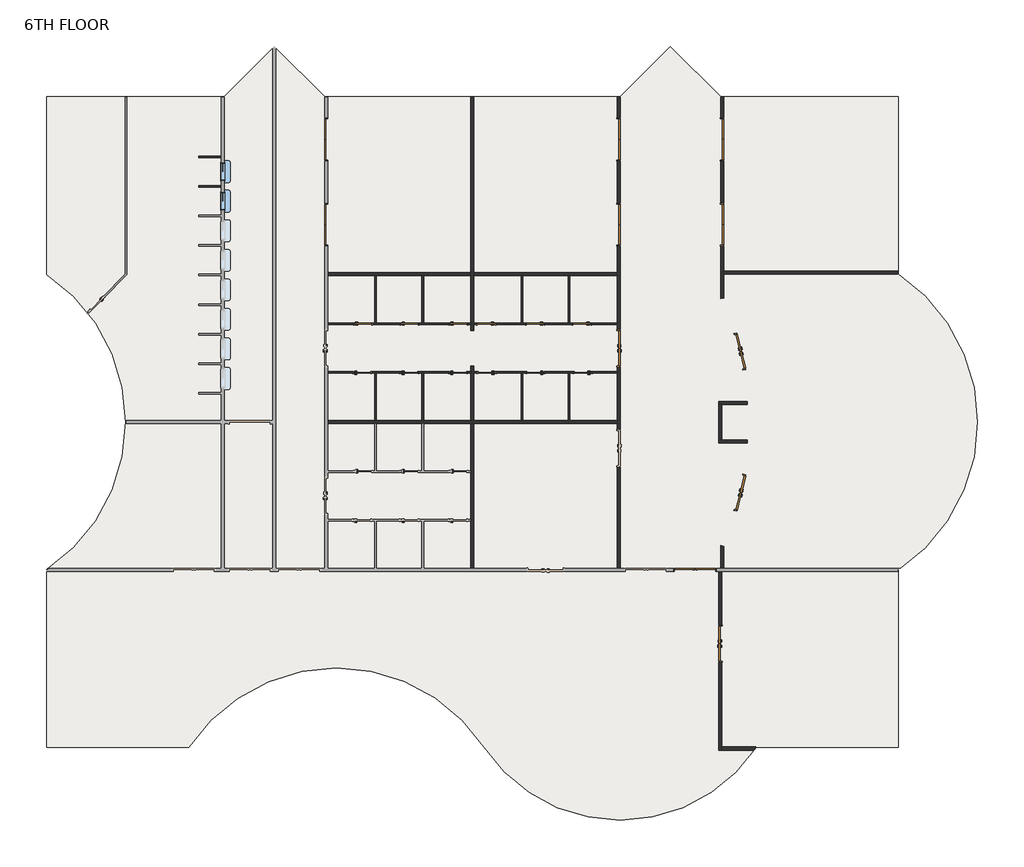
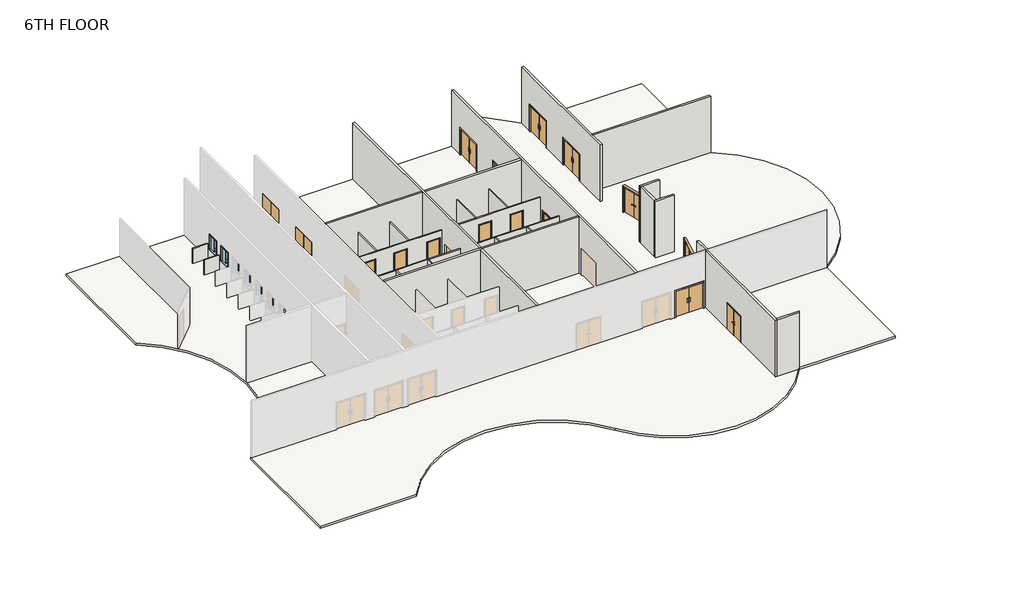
# One storey, part 2 of 2: 26 walls, 23 doors, 2 windows, 1 slab.
"""IFC4 building model written with IfcOpenShell, lengths in millimetres."""

from ifc_helpers import new_model, si_unit, point, frame, frame_2d, origin, place, context, project, spatial, polyline, circle_curve, trimmed, segment, composite_curve, outline, extrude, faceted_brep, transform, mapped, element, save
from ifc_brep_helpers import plane_surface, cylinder_surface, advanced_brep
from components import door_2f250f70, door_df8e76c5, door_0b13e4d9, door_b3a27a16, door_979b1b8c, door_f8b587be, pass_thru_4x3_19d81059

model = new_model("IFC4")

# Units and contexts
model_context = context("Model", 3, world=origin())
ifc_project = project(units=[si_unit("LENGTHUNIT", "METRE", prefix="MILLI")], contexts=[model_context])

# Site, building, storey
site = spatial("IfcSite", under=ifc_project)
building = spatial("IfcBuilding", under=site)
storey = spatial("IfcBuildingStorey", under=building, Name="6TH FLOOR", Elevation=27432.0)

# Doors
placement = place(None, origin())
door_shape = door_2f250f70(model_context)
element("IfcDoor", 1, ObjectType="Door-Passage-Double-Flush : 72\" x 82\"", at=placement, inside=storey, context=model_context, shape_type="MappedRepresentation", body=[
    mapped(door_shape, transform((35885.2621514, 20561.4429091, 27432.0), x_axis=(0.23975975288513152, -0.9708322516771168, 0.0), y_axis=(0.9708322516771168, 0.23975975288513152, 0.0), z_axis=(0.0, 0.0, 1.0))),
])
element("IfcDoor", 2, ObjectType="Door-Passage-Double-Flush : 72\" x 82\"", at=placement, inside=storey, context=model_context, shape_type="MappedRepresentation", body=[
    mapped(door_shape, transform((34887.5089577, 5494.3375, 27432.0), x_axis=(0.0, 1.0, 0.0), y_axis=(-1.0, 0.0, 0.0), z_axis=(0.0, 0.0, 1.0))),
])
door_2_shape = door_df8e76c5(model_context)
element("IfcDoor", 3, ObjectType="Door-Passage-Double-Flush : 72\" x 82\"", at=placement, inside=storey, context=model_context, shape_type="MappedRepresentation", body=[
    mapped(door_2_shape, transform((35886.7385063, 13277.3403388, 27432.0), x_axis=(0.23936619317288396, 0.9709293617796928, 0.0), y_axis=(-0.9709293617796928, 0.23936619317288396, 0.0), z_axis=(0.0, 0.0, 1.0))),
])
element("IfcDoor", 4, ObjectType="Door-Passage-Double-Flush : 72\" x 82\"", at=placement, inside=storey, context=model_context, shape_type="MappedRepresentation", body=[
    mapped(door_2_shape, transform((29628.0650257, 20729.575, 27432.0), x_axis=(0.0, 1.0, 0.0), y_axis=(-1.0, 0.0, 0.0), z_axis=(0.0, 0.0, 1.0))),
])
door_3_shape = door_0b13e4d9(model_context)
element("IfcDoor", 5, ObjectType="Door-Passage-Double-Flush-Dbl_Acting : 84\" x 84\"", at=placement, inside=storey, context=model_context, shape_type="MappedRepresentation", body=[
    mapped(door_3_shape, transform((33564.0300515, 9293.225, 27432.0), x_axis=(-1.0, 0.0, 0.0), y_axis=(0.0, -1.0, 0.0), z_axis=(0.0, 0.0, 1.0))),
])
element("IfcDoor", 6, ObjectType="Door-Passage-Double-Flush-Dbl_Acting : 84\" x 84\"", at=placement, inside=storey, context=model_context, shape_type="MappedRepresentation", body=[
    mapped(door_3_shape, transform((29628.0650257, 31499.175, 27432.0), x_axis=(0.0, 1.0, 0.0), y_axis=(-1.0, 0.0, 0.0), z_axis=(0.0, 0.0, 1.0))),
])
element("IfcDoor", 7, ObjectType="Door-Passage-Double-Flush-Dbl_Acting : 84\" x 84\"", at=placement, inside=storey, context=model_context, shape_type="MappedRepresentation", body=[
    mapped(door_3_shape, transform((29628.0650257, 27101.8, 27432.0), x_axis=(0.0, 1.0, 0.0), y_axis=(-1.0, 0.0, 0.0), z_axis=(0.0, 0.0, 1.0))),
])
door_4_shape = door_b3a27a16(model_context)
element("IfcDoor", 8, ObjectType="Door-Passage-Double-Flush-Dbl_Acting : 84\" x 84\"", at=placement, inside=storey, context=model_context, shape_type="MappedRepresentation", body=[
    mapped(door_4_shape, transform((14556.3400257, 31499.175, 27432.0), x_axis=(0.0, 1.0, 0.0), y_axis=(-1.0, 0.0, 0.0), z_axis=(0.0, 0.0, 1.0))),
])
element("IfcDoor", 9, ObjectType="Door-Passage-Double-Flush-Dbl_Acting : 84\" x 84\"", at=placement, inside=storey, context=model_context, shape_type="MappedRepresentation", body=[
    mapped(door_4_shape, transform((14556.3400257, 27101.8, 27432.0), x_axis=(0.0, 1.0, 0.0), y_axis=(-1.0, 0.0, 0.0), z_axis=(0.0, 0.0, 1.0))),
])
element("IfcDoor", 10, ObjectType="Door-Passage-Double-Flush-Dbl_Acting : 84\" x 84\"", at=placement, inside=storey, context=model_context, shape_type="MappedRepresentation", body=[
    mapped(door_4_shape, transform((34956.2675515, 31499.175, 27432.0), x_axis=(0.0, -1.0, 0.0), y_axis=(1.0, 0.0, 0.0), z_axis=(0.0, 0.0, 1.0))),
])
element("IfcDoor", 11, ObjectType="Door-Passage-Double-Flush-Dbl_Acting : 84\" x 84\"", at=placement, inside=storey, context=model_context, shape_type="MappedRepresentation", body=[
    mapped(door_4_shape, transform((34956.2675515, 27101.8, 27432.0), x_axis=(0.0, -1.0, 0.0), y_axis=(1.0, 0.0, 0.0), z_axis=(0.0, 0.0, 1.0))),
])
door_5_shape = door_979b1b8c(model_context)
element("IfcDoor", 12, ObjectType="Door-Passage-Single-Flush : 36\" x 96\"", at=placement, inside=storey, context=model_context, shape_type="MappedRepresentation", body=[
    mapped(door_5_shape, transform((16456.5775257, 21977.35, 27432.0), x_axis=(1.0, 0.0, 0.0), y_axis=(0.0, 1.0, 0.0), z_axis=(0.0, 0.0, 1.0))),
])
element("IfcDoor", 13, ObjectType="Door-Passage-Single-Flush : 36\" x 96\"", at=placement, inside=storey, context=model_context, shape_type="MappedRepresentation", body=[
    mapped(door_5_shape, transform((18855.2900257, 21977.35, 27432.0), x_axis=(1.0, 0.0, 0.0), y_axis=(0.0, 1.0, 0.0), z_axis=(0.0, 0.0, 1.0))),
])
element("IfcDoor", 14, ObjectType="Door-Passage-Single-Flush : 36\" x 96\"", at=placement, inside=storey, context=model_context, shape_type="MappedRepresentation", body=[
    mapped(door_5_shape, transform((21373.0650257, 21977.35, 27432.0), x_axis=(1.0, 0.0, 0.0), y_axis=(0.0, 1.0, 0.0), z_axis=(0.0, 0.0, 1.0))),
])
element("IfcDoor", 15, ObjectType="Door-Passage-Single-Flush : 36\" x 96\"", at=placement, inside=storey, context=model_context, shape_type="MappedRepresentation", body=[
    mapped(door_5_shape, transform((27778.6275257, 19481.8, 27432.0), x_axis=(-1.0, 0.0, 0.0), y_axis=(0.0, -1.0, 0.0), z_axis=(0.0, 0.0, 1.0))),
])
element("IfcDoor", 16, ObjectType="Door-Passage-Single-Flush : 36\" x 96\"", at=placement, inside=storey, context=model_context, shape_type="MappedRepresentation", body=[
    mapped(door_5_shape, transform((25348.1650257, 19481.8, 27432.0), x_axis=(-1.0, 0.0, 0.0), y_axis=(0.0, -1.0, 0.0), z_axis=(0.0, 0.0, 1.0))),
])
element("IfcDoor", 17, ObjectType="Door-Passage-Single-Flush : 36\" x 96\"", at=placement, inside=storey, context=model_context, shape_type="MappedRepresentation", body=[
    mapped(door_5_shape, transform((22830.3900257, 19481.8, 27432.0), x_axis=(-1.0, 0.0, 0.0), y_axis=(0.0, -1.0, 0.0), z_axis=(0.0, 0.0, 1.0))),
])
door_6_shape = door_f8b587be(model_context)
element("IfcDoor", 18, ObjectType="Door-Passage-Single-Flush : 36\" x 96\"", at=placement, inside=storey, context=model_context, shape_type="MappedRepresentation", body=[
    mapped(door_6_shape, transform((16405.7775257, 19481.8, 27432.0), x_axis=(1.0, 0.0, 0.0), y_axis=(0.0, 1.0, 0.0), z_axis=(0.0, 0.0, 1.0))),
])
element("IfcDoor", 19, ObjectType="Door-Passage-Single-Flush : 36\" x 96\"", at=placement, inside=storey, context=model_context, shape_type="MappedRepresentation", body=[
    mapped(door_6_shape, transform((18836.2400257, 19481.8, 27432.0), x_axis=(1.0, 0.0, 0.0), y_axis=(0.0, 1.0, 0.0), z_axis=(0.0, 0.0, 1.0))),
])
element("IfcDoor", 20, ObjectType="Door-Passage-Single-Flush : 36\" x 96\"", at=placement, inside=storey, context=model_context, shape_type="MappedRepresentation", body=[
    mapped(door_6_shape, transform((21354.0150257, 19481.8, 27432.0), x_axis=(1.0, 0.0, 0.0), y_axis=(0.0, 1.0, 0.0), z_axis=(0.0, 0.0, 1.0))),
])
element("IfcDoor", 21, ObjectType="Door-Passage-Single-Flush : 36\" x 96\"", at=placement, inside=storey, context=model_context, shape_type="MappedRepresentation", body=[
    mapped(door_6_shape, transform((27727.8275257, 21977.35, 27432.0), x_axis=(-1.0, 0.0, 0.0), y_axis=(0.0, -1.0, 0.0), z_axis=(0.0, 0.0, 1.0))),
])
element("IfcDoor", 22, ObjectType="Door-Passage-Single-Flush : 36\" x 96\"", at=placement, inside=storey, context=model_context, shape_type="MappedRepresentation", body=[
    mapped(door_6_shape, transform((25329.1150257, 21977.35, 27432.0), x_axis=(-1.0, 0.0, 0.0), y_axis=(0.0, -1.0, 0.0), z_axis=(0.0, 0.0, 1.0))),
])
element("IfcDoor", 23, ObjectType="Door-Passage-Single-Flush : 36\" x 96\"", at=placement, inside=storey, context=model_context, shape_type="MappedRepresentation", body=[
    mapped(door_6_shape, transform((22811.3400257, 21977.35, 27432.0), x_axis=(-1.0, 0.0, 0.0), y_axis=(0.0, -1.0, 0.0), z_axis=(0.0, 0.0, 1.0))),
])

# Slab
element("IfcSlab", 24, ObjectType="ARCHITECTURAL FINISH FLOOR", at=placement, inside=storey, context=model_context, shape_type="SweptSolid", body=[
    extrude(outline(composite_curve([segment(polyline([(9294.3144878, 33696.275), (11885.8887629, 36287.8492751), (14477.463038, 33696.275), (29706.9420135, 33696.275), (32298.5162886, 36287.8492751), (34890.0905637, 33696.275), (44041.5300515, 33696.275), (44041.5300515, 24546.3877275)]), True, "CONTINUOUS"), segment(trimmed(circle_curve(frame_2d((38974.293871, 16919.575)), 9156.7), [point((44041.5300515, 24546.3877275))], [point((44041.5300515, 9292.7622725))], False, "CARTESIAN"), True, "CONTINUOUS"), segment(polyline([(44041.5300515, 9292.7622725), (44041.5300515, 142.875), (36720.4425102, 142.875)]), True, "CONTINUOUS"), segment(trimmed(circle_curve(frame_2d((29712.2025257, 4799.7966199)), 8414.4130309), [point((36720.4425102, 142.875))], [point((22700.1916667, 148.5548109))], False, "CARTESIAN"), True, "CONTINUOUS"), segment(trimmed(circle_curve(frame_2d((15090.775, -4898.9611805)), 9131.3), [point((22700.1916667, 148.5548109))], [point((7477.593824, 142.875))], True, "CARTESIAN"), True, "CONTINUOUS"), segment(polyline([(7477.593824, 142.875), (142.875, 142.875), (142.875, 9306.393824)]), True, "CONTINUOUS"), segment(trimmed(circle_curve(frame_2d((-4898.9611805, 16919.575)), 9131.3), [point((142.875, 9306.393824))], [point((142.875, 24532.756176))], True, "CARTESIAN"), True, "CONTINUOUS"), segment(polyline([(142.875, 24532.756176), (142.875, 33696.275), (9294.3144878, 33696.275)]), True, "CONTINUOUS")], self_intersect=False)), frame((0.0, 0.0, 27279.6), z_axis=(0.0, 0.0, 1.0), x_axis=(1.0, 0.0, 0.0)), (0.0, 0.0, 1.0), 171.45),
])

# Walls
element("IfcWall", 25, ObjectType="SYR_INT_ONE_HOUR", at=placement, inside=storey, context=model_context, shape_type="SweptSolid", body=[
    extrude(outline(polyline([(17066.1775257, 22023.3875), (17066.1775257, 24461.7875), (17145.5525257, 24461.7875), (17145.5525257, 22023.3875), (17066.1775257, 22023.3875)])), frame((0.0, 0.0, 27432.0), z_axis=(0.0, 0.0, 1.0), x_axis=(1.0, 0.0, 0.0)), (0.0, 0.0, 1.0), 3048.0),
])
element("IfcWall", 26, ObjectType="SYR_INT_ONE_HOUR", at=placement, inside=storey, context=model_context, shape_type="SweptSolid", body=[
    extrude(outline(polyline([(19576.0150257, 19435.7625), (19576.0150257, 16997.3625), (19496.6400257, 16997.3625), (19496.6400257, 19435.7625), (19576.0150257, 19435.7625)])), frame((0.0, 0.0, 27432.0), z_axis=(0.0, 0.0, 1.0), x_axis=(1.0, 0.0, 0.0)), (0.0, 0.0, 1.0), 3048.0),
])
element("IfcWall", 27, ObjectType="SYR_INT_ONE_HOUR", at=placement, inside=storey, context=model_context, shape_type="Brep", body=[
    faceted_brep([(14627.7775257, 22023.3875, 30480.0), (17066.1775257, 22023.3875, 30480.0), (17145.5525257, 22023.3875, 30480.0), (19496.6400257, 22023.3875, 30480.0), (19576.0150257, 22023.3875, 30480.0), (22014.4150257, 22023.3875, 30480.0), (22014.4150257, 22023.3875, 27432.0), (21862.0150257, 22023.3875, 27432.0), (21862.0150257, 22023.3875, 29902.15), (20884.1150257, 22023.3875, 29902.15), (20884.1150257, 22023.3875, 27432.0), (19576.0150257, 22023.3875, 27432.0), (19496.6400257, 22023.3875, 27432.0), (19344.2400257, 22023.3875, 27432.0), (19344.2400257, 22023.3875, 29902.15), (18366.3400257, 22023.3875, 29902.15), (18366.3400257, 22023.3875, 27432.0), (17145.5525257, 22023.3875, 27432.0), (17066.1775257, 22023.3875, 27432.0), (16945.5275257, 22023.3875, 27432.0), (16945.5275257, 22023.3875, 29902.15), (15967.6275257, 22023.3875, 29902.15), (15967.6275257, 22023.3875, 27432.0), (14627.7775257, 22023.3875, 27432.0), (22014.4150257, 21944.0125, 30480.0), (14627.7775257, 21944.0125, 30480.0), (14627.7775257, 21944.0125, 27432.0), (15967.6275257, 21944.0125, 27432.0), (15967.6275257, 21944.0125, 29902.15), (16945.5275257, 21944.0125, 29902.15), (16945.5275257, 21944.0125, 27432.0), (18366.3400257, 21944.0125, 27432.0), (18366.3400257, 21944.0125, 29902.15), (19344.2400257, 21944.0125, 29902.15), (19344.2400257, 21944.0125, 27432.0), (20884.1150257, 21944.0125, 27432.0), (20884.1150257, 21944.0125, 29902.15), (21862.0150257, 21944.0125, 29902.15), (21862.0150257, 21944.0125, 27432.0), (22014.4150257, 21944.0125, 27432.0)], [[[0, 1, 2, 3, 4, 5, 6, 7, 8, 9, 10, 11, 12, 13, 14, 15, 16, 17, 18, 19, 20, 21, 22, 23]], [[24, 25, 26, 27, 28, 29, 30, 31, 32, 33, 34, 35, 36, 37, 38, 39]], [[23, 22, 27, 26]], [[30, 19, 18, 17, 16, 31]], [[34, 13, 12, 11, 10, 35]], [[6, 39, 38, 7]], [[5, 4, 3, 2, 1, 0, 25, 24]], [[29, 20, 19, 30]], [[20, 29, 28, 21]], [[21, 28, 27, 22]], [[14, 13, 34, 33]], [[15, 14, 33, 32]], [[16, 15, 32, 31]], [[37, 8, 7, 38]], [[8, 37, 36, 9]], [[9, 36, 35, 10]], [[0, 23, 26, 25]], [[6, 5, 24, 39]]]),
])
element("IfcWall", 28, ObjectType="SYR_INT_ONE_HOUR", at=placement, inside=storey, context=model_context, shape_type="Brep", body=[
    faceted_brep([(14627.7775257, 19515.1375, 30480.0), (22014.4150257, 19515.1375, 30480.0), (22014.4150257, 19515.1375, 27432.0), (21842.9650257, 19515.1375, 27432.0), (21842.9650257, 19515.1375, 29902.15), (20865.0650257, 19515.1375, 29902.15), (20865.0650257, 19515.1375, 27432.0), (19325.1900257, 19515.1375, 27432.0), (19325.1900257, 19515.1375, 29902.15), (18347.2900257, 19515.1375, 29902.15), (18347.2900257, 19515.1375, 27432.0), (16894.7275257, 19515.1375, 27432.0), (16894.7275257, 19515.1375, 29902.15), (15916.8275257, 19515.1375, 29902.15), (15916.8275257, 19515.1375, 27432.0), (14627.7775257, 19515.1375, 27432.0), (22014.4150257, 19435.7625, 30480.0), (19576.0150257, 19435.7625, 30480.0), (19496.6400257, 19435.7625, 30480.0), (17145.5525257, 19435.7625, 30480.0), (17066.1775257, 19435.7625, 30480.0), (14627.7775257, 19435.7625, 30480.0), (14627.7775257, 19435.7625, 27432.0), (15916.8275257, 19435.7625, 27432.0), (15916.8275257, 19435.7625, 29902.15), (16894.7275257, 19435.7625, 29902.15), (16894.7275257, 19435.7625, 27432.0), (17066.1775257, 19435.7625, 27432.0), (17145.5525257, 19435.7625, 27432.0), (18347.2900257, 19435.7625, 27432.0), (18347.2900257, 19435.7625, 29902.15), (19325.1900257, 19435.7625, 29902.15), (19325.1900257, 19435.7625, 27432.0), (19496.6400257, 19435.7625, 27432.0), (19576.0150257, 19435.7625, 27432.0), (20865.0650257, 19435.7625, 27432.0), (20865.0650257, 19435.7625, 29902.15), (21842.9650257, 19435.7625, 29902.15), (21842.9650257, 19435.7625, 27432.0), (22014.4150257, 19435.7625, 27432.0)], [[[0, 1, 2, 3, 4, 5, 6, 7, 8, 9, 10, 11, 12, 13, 14, 15]], [[16, 17, 18, 19, 20, 21, 22, 23, 24, 25, 26, 27, 28, 29, 30, 31, 32, 33, 34, 35, 36, 37, 38, 39]], [[15, 14, 23, 22]], [[26, 11, 10, 29, 28, 27]], [[32, 7, 6, 35, 34, 33]], [[2, 39, 38, 3]], [[1, 0, 21, 20, 19, 18, 17, 16]], [[25, 12, 11, 26]], [[12, 25, 24, 13]], [[13, 24, 23, 14]], [[31, 8, 7, 32]], [[8, 31, 30, 9]], [[9, 30, 29, 10]], [[37, 4, 3, 38]], [[4, 37, 36, 5]], [[5, 36, 35, 6]], [[0, 15, 22, 21]], [[2, 1, 16, 39]]]),
])
element("IfcWall", 29, ObjectType="SYR_INT_ONE_HOUR", at=placement, inside=storey, context=model_context, shape_type="SweptSolid", body=[
    extrude(outline(polyline([(17066.1775257, 16997.3625), (17066.1775257, 19435.7625), (17145.5525257, 19435.7625), (17145.5525257, 16997.3625), (17066.1775257, 16997.3625)])), frame((0.0, 0.0, 27432.0), z_axis=(0.0, 0.0, 1.0), x_axis=(1.0, 0.0, 0.0)), (0.0, 0.0, 1.0), 3048.0),
])
element("IfcWall", 30, ObjectType="SYR_INT_ONE_HOUR", at=placement, inside=storey, context=model_context, shape_type="SweptSolid", body=[
    extrude(outline(polyline([(19576.0150257, 24461.7875), (19576.0150257, 22023.3875), (19496.6400257, 22023.3875), (19496.6400257, 24461.7875), (19576.0150257, 24461.7875)])), frame((0.0, 0.0, 27432.0), z_axis=(0.0, 0.0, 1.0), x_axis=(1.0, 0.0, 0.0)), (0.0, 0.0, 1.0), 3048.0),
])
element("IfcWall", 31, ObjectType="SYR_INT_ONE_HOUR", at=placement, inside=storey, context=model_context, shape_type="SweptSolid", body=[
    extrude(outline(polyline([(7979.2710938, 29111.575), (9144.0, 29111.575), (9144.0, 29032.2), (7979.2710938, 29032.2), (7979.2710938, 29111.575)])), frame((0.0, 0.0, 27432.0), z_axis=(0.0, 0.0, 1.0), x_axis=(1.0, 0.0, 0.0)), (0.0, 0.0, 1.0), 1219.2),
])
element("IfcWall", 32, ObjectType="SYR_INT_ONE_HOUR", at=placement, inside=storey, context=model_context, shape_type="SweptSolid", body=[
    extrude(outline(polyline([(7979.2710938, 30635.575), (9144.0, 30635.575), (9144.0, 30556.2), (7979.2710938, 30556.2), (7979.2710938, 30635.575)])), frame((0.0, 0.0, 27432.0), z_axis=(0.0, 0.0, 1.0), x_axis=(1.0, 0.0, 0.0)), (0.0, 0.0, 1.0), 1219.2),
])
element("IfcWall", 33, ObjectType="SYR_INT_ONE_HOUR", at=placement, inside=storey, context=model_context, shape_type="SweptSolid", body=[
    extrude(outline(polyline([(27038.8525257, 22023.3875), (27038.8525257, 24461.7875), (27118.2275257, 24461.7875), (27118.2275257, 22023.3875), (27038.8525257, 22023.3875)])), frame((0.0, 0.0, 27432.0), z_axis=(0.0, 0.0, 1.0), x_axis=(1.0, 0.0, 0.0)), (0.0, 0.0, 1.0), 3048.0),
])
element("IfcWall", 34, ObjectType="SYR_INT_ONE_HOUR", at=placement, inside=storey, context=model_context, shape_type="SweptSolid", body=[
    extrude(outline(polyline([(24687.7650257, 19435.7625), (24687.7650257, 16997.3625), (24608.3900257, 16997.3625), (24608.3900257, 19435.7625), (24687.7650257, 19435.7625)])), frame((0.0, 0.0, 27432.0), z_axis=(0.0, 0.0, 1.0), x_axis=(1.0, 0.0, 0.0)), (0.0, 0.0, 1.0), 3048.0),
])
element("IfcWall", 35, ObjectType="SYR_INT_ONE_HOUR", at=placement, inside=storey, context=model_context, shape_type="Brep", body=[
    faceted_brep([(29556.6275257, 21944.0125, 30480.0), (22169.9900257, 21944.0125, 30480.0), (22169.9900257, 21944.0125, 27432.0), (22322.3900257, 21944.0125, 27432.0), (22322.3900257, 21944.0125, 29902.15), (23300.2900257, 21944.0125, 29902.15), (23300.2900257, 21944.0125, 27432.0), (24840.1650257, 21944.0125, 27432.0), (24840.1650257, 21944.0125, 29902.15), (25818.0650257, 21944.0125, 29902.15), (25818.0650257, 21944.0125, 27432.0), (27238.8775257, 21944.0125, 27432.0), (27238.8775257, 21944.0125, 29902.15), (28216.7775257, 21944.0125, 29902.15), (28216.7775257, 21944.0125, 27432.0), (29556.6275257, 21944.0125, 27432.0), (22169.9900257, 22023.3875, 30480.0), (24608.3900257, 22023.3875, 30480.0), (24687.7650257, 22023.3875, 30480.0), (27038.8525257, 22023.3875, 30480.0), (27118.2275257, 22023.3875, 30480.0), (29556.6275257, 22023.3875, 30480.0), (29556.6275257, 22023.3875, 27432.0), (28216.7775257, 22023.3875, 27432.0), (28216.7775257, 22023.3875, 29902.15), (27238.8775257, 22023.3875, 29902.15), (27238.8775257, 22023.3875, 27432.0), (27118.2275257, 22023.3875, 27432.0), (27038.8525257, 22023.3875, 27432.0), (25818.0650257, 22023.3875, 27432.0), (25818.0650257, 22023.3875, 29902.15), (24840.1650257, 22023.3875, 29902.15), (24840.1650257, 22023.3875, 27432.0), (24687.7650257, 22023.3875, 27432.0), (24608.3900257, 22023.3875, 27432.0), (23300.2900257, 22023.3875, 27432.0), (23300.2900257, 22023.3875, 29902.15), (22322.3900257, 22023.3875, 29902.15), (22322.3900257, 22023.3875, 27432.0), (22169.9900257, 22023.3875, 27432.0)], [[[0, 1, 2, 3, 4, 5, 6, 7, 8, 9, 10, 11, 12, 13, 14, 15]], [[16, 17, 18, 19, 20, 21, 22, 23, 24, 25, 26, 27, 28, 29, 30, 31, 32, 33, 34, 35, 36, 37, 38, 39]], [[15, 14, 23, 22]], [[26, 11, 10, 29, 28, 27]], [[32, 7, 6, 35, 34, 33]], [[2, 39, 38, 3]], [[1, 0, 21, 20, 19, 18, 17, 16]], [[25, 12, 11, 26]], [[12, 25, 24, 13]], [[13, 24, 23, 14]], [[8, 7, 32, 31]], [[9, 8, 31, 30]], [[10, 9, 30, 29]], [[37, 4, 3, 38]], [[4, 37, 36, 5]], [[5, 36, 35, 6]], [[0, 15, 22, 21]], [[2, 1, 16, 39]]]),
])
element("IfcWall", 36, ObjectType="SYR_INT_ONE_HOUR", at=placement, inside=storey, context=model_context, shape_type="Brep", body=[
    faceted_brep([(29556.6275257, 19435.7625, 30480.0), (27118.2275257, 19435.7625, 30480.0), (27038.8525257, 19435.7625, 30480.0), (24687.7650257, 19435.7625, 30480.0), (24608.3900257, 19435.7625, 30480.0), (22169.9900257, 19435.7625, 30480.0), (22169.9900257, 19435.7625, 27432.0), (22341.4400257, 19435.7625, 27432.0), (22341.4400257, 19435.7625, 29902.15), (23319.3400257, 19435.7625, 29902.15), (23319.3400257, 19435.7625, 27432.0), (24608.3900257, 19435.7625, 27432.0), (24687.7650257, 19435.7625, 27432.0), (24859.2150257, 19435.7625, 27432.0), (24859.2150257, 19435.7625, 29902.15), (25837.1150257, 19435.7625, 29902.15), (25837.1150257, 19435.7625, 27432.0), (27038.8525257, 19435.7625, 27432.0), (27118.2275257, 19435.7625, 27432.0), (27289.6775257, 19435.7625, 27432.0), (27289.6775257, 19435.7625, 29902.15), (28267.5775257, 19435.7625, 29902.15), (28267.5775257, 19435.7625, 27432.0), (29556.6275257, 19435.7625, 27432.0), (22169.9900257, 19515.1375, 30480.0), (29556.6275257, 19515.1375, 30480.0), (29556.6275257, 19515.1375, 27432.0), (28267.5775257, 19515.1375, 27432.0), (28267.5775257, 19515.1375, 29902.15), (27289.6775257, 19515.1375, 29902.15), (27289.6775257, 19515.1375, 27432.0), (25837.1150257, 19515.1375, 27432.0), (25837.1150257, 19515.1375, 29902.15), (24859.2150257, 19515.1375, 29902.15), (24859.2150257, 19515.1375, 27432.0), (23319.3400257, 19515.1375, 27432.0), (23319.3400257, 19515.1375, 29902.15), (22341.4400257, 19515.1375, 29902.15), (22341.4400257, 19515.1375, 27432.0), (22169.9900257, 19515.1375, 27432.0)], [[[0, 1, 2, 3, 4, 5, 6, 7, 8, 9, 10, 11, 12, 13, 14, 15, 16, 17, 18, 19, 20, 21, 22, 23]], [[24, 25, 26, 27, 28, 29, 30, 31, 32, 33, 34, 35, 36, 37, 38, 39]], [[23, 22, 27, 26]], [[30, 19, 18, 17, 16, 31]], [[34, 13, 12, 11, 10, 35]], [[6, 39, 38, 7]], [[5, 4, 3, 2, 1, 0, 25, 24]], [[29, 20, 19, 30]], [[20, 29, 28, 21]], [[21, 28, 27, 22]], [[33, 14, 13, 34]], [[14, 33, 32, 15]], [[15, 32, 31, 16]], [[37, 8, 7, 38]], [[8, 37, 36, 9]], [[9, 36, 35, 10]], [[0, 23, 26, 25]], [[6, 5, 24, 39]]]),
])
element("IfcWall", 37, ObjectType="SYR_INT_ONE_HOUR", at=placement, inside=storey, context=model_context, shape_type="SweptSolid", body=[
    extrude(outline(polyline([(27038.8525257, 16997.3625), (27038.8525257, 19435.7625), (27118.2275257, 19435.7625), (27118.2275257, 16997.3625), (27038.8525257, 16997.3625)])), frame((0.0, 0.0, 27432.0), z_axis=(0.0, 0.0, 1.0), x_axis=(1.0, 0.0, 0.0)), (0.0, 0.0, 1.0), 3048.0),
])
element("IfcWall", 38, ObjectType="SYR_INT_ONE_HOUR", at=placement, inside=storey, context=model_context, shape_type="SweptSolid", body=[
    extrude(outline(polyline([(24687.7650257, 24461.7875), (24687.7650257, 22023.3875), (24608.3900257, 22023.3875), (24608.3900257, 24461.7875), (24687.7650257, 24461.7875)])), frame((0.0, 0.0, 27432.0), z_axis=(0.0, 0.0, 1.0), x_axis=(1.0, 0.0, 0.0)), (0.0, 0.0, 1.0), 3048.0),
])
element("IfcWall", 39, ObjectType="SYR_INT_TWO_HOUR", at=placement, inside=storey, context=model_context, shape_type="Brep", body=[
    faceted_brep([(34803.3714577, 0.0, 32004.0), (34803.3714577, 9221.7875, 32004.0), (34803.3714577, 9221.7875, 27432.0), (34803.3714577, 6459.5375, 27432.0), (34803.3714577, 6459.5375, 29616.4), (34803.3714577, 4529.1375, 29616.4), (34803.3714577, 4529.1375, 27432.0), (34803.3714577, 0.0, 27432.0), (34958.9464577, 9221.7875, 32004.0), (34958.9464577, 155.575, 32004.0), (34958.9464577, 0.0, 32004.0), (34958.9464577, 0.0, 27432.0), (34958.9464577, 155.575, 27432.0), (34958.9464577, 4529.1375, 27432.0), (34958.9464577, 4529.1375, 29616.4), (34958.9464577, 6459.5375, 29616.4), (34958.9464577, 6459.5375, 27432.0), (34958.9464577, 9221.7875, 27432.0)], [[[0, 1, 2, 3, 4, 5, 6, 7]], [[8, 9, 10, 11, 12, 13, 14, 15, 16, 17]], [[2, 17, 16, 3]], [[11, 7, 6, 13, 12]], [[1, 0, 10, 9, 8]], [[2, 1, 8, 17]], [[0, 7, 11, 10]], [[15, 4, 3, 16]], [[4, 15, 14, 5]], [[5, 14, 13, 6]]]),
])
element("IfcWall", 40, ObjectType="SYR_INT_TWO_HOUR", at=placement, inside=storey, context=model_context, shape_type="SweptSolid", body=[
    extrude(outline(composite_curve([segment(polyline([(36607.9065696, 0.0), (34958.9464577, 0.0), (34958.9464577, 155.575), (36713.6300515, 155.575)]), True, "CONTINUOUS"), segment(trimmed(circle_curve(frame_2d((29712.2025257, 4799.7966199)), 8401.7130309), [point((36713.6300515, 155.575))], [point((36607.9065696, 0.0))], False, "CARTESIAN"), True, "CONTINUOUS")], self_intersect=False)), frame((0.0, 0.0, 27432.0), z_axis=(0.0, 0.0, 1.0), x_axis=(1.0, 0.0, 0.0)), (0.0, 0.0, 1.0), 4572.0),
])
element("IfcWall", 41, ObjectType="SYR_INT_TWO_HOUR", at=placement, inside=storey, context=model_context, shape_type="Brep", body=[
    faceted_brep([(29556.6275257, 9377.3625, 32004.0), (29556.6275257, 16841.7875, 32004.0), (29556.6275257, 16997.3625, 32004.0), (29556.6275257, 24461.7875, 32004.0), (29556.6275257, 24617.3625, 32004.0), (29556.6275257, 33683.575, 32004.0), (29556.6275257, 33683.575, 27432.0), (29556.6275257, 32616.775, 27432.0), (29556.6275257, 32616.775, 29667.2), (29556.6275257, 30381.575, 29667.2), (29556.6275257, 30381.575, 27432.0), (29556.6275257, 28219.4, 27432.0), (29556.6275257, 28219.4, 29667.2), (29556.6275257, 25984.2, 29667.2), (29556.6275257, 25984.2, 27432.0), (29556.6275257, 24617.3625, 27432.0), (29556.6275257, 24461.7875, 27432.0), (29556.6275257, 22023.3875, 27432.0), (29556.6275257, 21944.0125, 27432.0), (29556.6275257, 21694.775, 27432.0), (29556.6275257, 21694.775, 29616.4), (29556.6275257, 19764.375, 29616.4), (29556.6275257, 19764.375, 27432.0), (29556.6275257, 19515.1375, 27432.0), (29556.6275257, 19435.7625, 27432.0), (29556.6275257, 16997.3625, 27432.0), (29556.6275257, 16841.7875, 27432.0), (29556.6275257, 16536.9875, 27432.0), (29556.6275257, 16536.9875, 29616.4), (29556.6275257, 14606.5875, 29616.4), (29556.6275257, 14606.5875, 27432.0), (29556.6275257, 9377.3625, 27432.0), (29712.2025257, 33683.575, 32004.0), (29712.2025257, 9377.3625, 32004.0), (29712.2025257, 9377.3625, 27432.0), (29712.2025257, 14606.5875, 27432.0), (29712.2025257, 14606.5875, 29616.4), (29712.2025257, 16536.9875, 29616.4), (29712.2025257, 16536.9875, 27432.0), (29712.2025257, 19764.375, 27432.0), (29712.2025257, 19764.375, 29616.4), (29712.2025257, 21694.775, 29616.4), (29712.2025257, 21694.775, 27432.0), (29712.2025257, 25984.2, 27432.0), (29712.2025257, 25984.2, 29667.2), (29712.2025257, 28219.4, 29667.2), (29712.2025257, 28219.4, 27432.0), (29712.2025257, 30381.575, 27432.0), (29712.2025257, 30381.575, 29667.2), (29712.2025257, 32616.775, 29667.2), (29712.2025257, 32616.775, 27432.0), (29712.2025257, 33683.575, 27432.0)], [[[0, 1, 2, 3, 4, 5, 6, 7, 8, 9, 10, 11, 12, 13, 14, 15, 16, 17, 18, 19, 20, 21, 22, 23, 24, 25, 26, 27, 28, 29, 30, 31]], [[32, 33, 34, 35, 36, 37, 38, 39, 40, 41, 42, 43, 44, 45, 46, 47, 48, 49, 50, 51]], [[34, 31, 30, 35]], [[42, 19, 18, 17, 16, 15, 14, 43]], [[22, 39, 38, 27, 26, 25, 24, 23]], [[46, 11, 10, 47]], [[7, 6, 51, 50]], [[5, 4, 3, 2, 1, 0, 33, 32]], [[0, 31, 34, 33]], [[41, 20, 19, 42]], [[20, 41, 40, 21]], [[21, 40, 39, 22]], [[45, 12, 11, 46]], [[12, 45, 44, 13]], [[13, 44, 43, 14]], [[49, 8, 7, 50]], [[8, 49, 48, 9]], [[9, 48, 47, 10]], [[29, 36, 35, 30]], [[36, 29, 28, 37]], [[37, 28, 27, 38]], [[6, 5, 32, 51]]]),
])
element("IfcWall", 42, ObjectType="SYR_INT_TWO_HOUR", at=placement, inside=storey, context=model_context, shape_type="Brep", body=[
    faceted_brep([(34884.8300515, 23286.7810764, 32004.0), (34884.8300515, 33683.575, 32004.0), (34884.8300515, 33683.575, 27432.0), (34884.8300515, 32616.775, 27432.0), (34884.8300515, 32616.775, 29667.2), (34884.8300515, 30381.575, 29667.2), (34884.8300515, 30381.575, 27432.0), (34884.8300515, 28219.4, 27432.0), (34884.8300515, 28219.4, 29667.2), (34884.8300515, 25984.2, 29667.2), (34884.8300515, 25984.2, 27432.0), (34884.8300515, 23286.7810764, 27432.0), (35040.4050515, 33683.575, 32004.0), (35040.4050515, 24695.15, 32004.0), (35040.4050515, 24539.575, 32004.0), (35040.4050515, 23320.9573614, 32004.0), (35040.4050515, 23320.9573614, 27432.0), (35040.4050515, 24539.575, 27432.0), (35040.4050515, 24695.15, 27432.0), (35040.4050515, 25984.2, 27432.0), (35040.4050515, 25984.2, 29667.2), (35040.4050515, 28219.4, 29667.2), (35040.4050515, 28219.4, 27432.0), (35040.4050515, 30381.575, 27432.0), (35040.4050515, 30381.575, 29667.2), (35040.4050515, 32616.775, 29667.2), (35040.4050515, 32616.775, 27432.0), (35040.4050515, 33683.575, 27432.0)], [[[0, 1, 2, 3, 4, 5, 6, 7, 8, 9, 10, 11]], [[12, 13, 14, 15, 16, 17, 18, 19, 20, 21, 22, 23, 24, 25, 26, 27]], [[16, 11, 10, 19, 18, 17]], [[3, 2, 27, 26]], [[6, 23, 22, 7]], [[1, 0, 15, 14, 13, 12]], [[0, 11, 16, 15]], [[5, 24, 23, 6]], [[24, 5, 4, 25]], [[25, 4, 3, 26]], [[9, 20, 19, 10]], [[20, 9, 8, 21]], [[21, 8, 7, 22]], [[2, 1, 12, 27]]]),
])
element("IfcWall", 43, ObjectType="SYR_INT_TWO_HOUR", at=placement, inside=storey, context=model_context, shape_type="Brep", body=[
    faceted_brep([(14627.7775257, 16841.7875, 27432.0), (17066.1775257, 16841.7875, 27432.0), (17145.5525257, 16841.7875, 27432.0), (19496.6400257, 16841.7875, 27432.0), (19576.0150257, 16841.7875, 27432.0), (22014.4150257, 16841.7875, 27432.0), (22169.9900257, 16841.7875, 27432.0), (29556.6275257, 16841.7875, 27432.0), (29556.6275257, 16841.7875, 32004.0), (22169.9900257, 16841.7875, 32004.0), (22014.4150257, 16841.7875, 32004.0), (14627.7775257, 16841.7875, 32004.0), (14627.7775257, 16997.3625, 27432.0), (14627.7775257, 16997.3625, 32004.0), (22014.4150257, 16997.3625, 32004.0), (22169.9900257, 16997.3625, 32004.0), (29556.6275257, 16997.3625, 32004.0), (29556.6275257, 16997.3625, 27432.0), (27118.2275257, 16997.3625, 27432.0), (27038.8525257, 16997.3625, 27432.0), (24687.7650257, 16997.3625, 27432.0), (24608.3900257, 16997.3625, 27432.0), (22169.9900257, 16997.3625, 27432.0), (22014.4150257, 16997.3625, 27432.0), (19576.0150257, 16997.3625, 27432.0), (19496.6400257, 16997.3625, 27432.0), (17145.5525257, 16997.3625, 27432.0), (17066.1775257, 16997.3625, 27432.0)], [[[0, 1, 2, 3, 4, 5, 6, 7, 8, 9, 10, 11]], [[12, 13, 14, 15, 16, 17, 18, 19, 20, 21, 22, 23, 24, 25, 26, 27]], [[7, 6, 5, 4, 3, 2, 1, 0, 12, 27, 26, 25, 24, 23, 22, 21, 20, 19, 18, 17]], [[11, 10, 9, 8, 16, 15, 14, 13]], [[0, 11, 13, 12]], [[8, 7, 17, 16]]]),
])
element("IfcWall", 44, ObjectType="SYR_INT_TWO_HOUR", at=placement, inside=storey, context=model_context, shape_type="Brep", body=[
    faceted_brep([(22169.9900257, 9377.3625, 32004.0), (22169.9900257, 9377.3625, 27432.0), (22169.9900257, 16841.7875, 27432.0), (22169.9900257, 16841.7875, 32004.0), (22014.4150257, 9377.3625, 27432.0), (22014.4150257, 9377.3625, 32004.0), (22014.4150257, 16841.7875, 32004.0), (22014.4150257, 16841.7875, 27432.0), (22014.4150257, 14403.3875, 27432.0), (22014.4150257, 14324.0125, 27432.0), (22014.4150257, 11895.1375, 27432.0), (22014.4150257, 11815.7625, 27432.0)], [[[0, 1, 2, 3]], [[4, 5, 6, 7, 8, 9, 10, 11]], [[1, 4, 11, 10, 9, 8, 7, 2]], [[5, 0, 3, 6]], [[1, 0, 5, 4]], [[3, 2, 7, 6]]]),
    faceted_brep([(22169.9900257, 19815.175, 27432.0), (22169.9900257, 19815.175, 29565.6), (22169.9900257, 21643.975, 29565.6), (22169.9900257, 21643.975, 27432.0), (22169.9900257, 21944.0125, 27432.0), (22169.9900257, 22023.3875, 27432.0), (22169.9900257, 24461.7875, 27432.0), (22169.9900257, 24617.3625, 27432.0), (22169.9900257, 33683.575, 27432.0), (22169.9900257, 33683.575, 32004.0), (22169.9900257, 24617.3625, 32004.0), (22169.9900257, 24461.7875, 32004.0), (22169.9900257, 16997.3625, 32004.0), (22169.9900257, 16997.3625, 27432.0), (22169.9900257, 19435.7625, 27432.0), (22169.9900257, 19515.1375, 27432.0), (22014.4150257, 19815.175, 29565.6), (22014.4150257, 19815.175, 27432.0), (22014.4150257, 19515.1375, 27432.0), (22014.4150257, 19435.7625, 27432.0), (22014.4150257, 16997.3625, 27432.0), (22014.4150257, 16997.3625, 32004.0), (22014.4150257, 24461.7875, 32004.0), (22014.4150257, 24617.3625, 32004.0), (22014.4150257, 33683.575, 32004.0), (22014.4150257, 33683.575, 27432.0), (22014.4150257, 24617.3625, 27432.0), (22014.4150257, 24461.7875, 27432.0), (22014.4150257, 22023.3875, 27432.0), (22014.4150257, 21944.0125, 27432.0), (22014.4150257, 21643.975, 27432.0), (22014.4150257, 21643.975, 29565.6)], [[[0, 1, 2, 3, 4, 5, 6, 7, 8, 9, 10, 11, 12, 13, 14, 15]], [[16, 17, 18, 19, 20, 21, 22, 23, 24, 25, 26, 27, 28, 29, 30, 31]], [[17, 0, 15, 14, 13, 20, 19, 18]], [[3, 30, 29, 28, 27, 26, 25, 8, 7, 6, 5, 4]], [[9, 24, 23, 22, 21, 12, 11, 10]], [[13, 12, 21, 20]], [[17, 16, 1, 0]], [[31, 30, 3, 2]], [[16, 31, 2, 1]], [[9, 8, 25, 24]]]),
])
element("IfcWall", 45, ObjectType="SYR_INT_TWO_HOUR", at=placement, inside=storey, context=model_context, shape_type="Brep", body=[
    faceted_brep([(14627.7775257, 24461.7875, 32004.0), (14627.7775257, 24461.7875, 27432.0), (17066.1775257, 24461.7875, 27432.0), (17145.5525257, 24461.7875, 27432.0), (19496.6400257, 24461.7875, 27432.0), (19576.0150257, 24461.7875, 27432.0), (22014.4150257, 24461.7875, 27432.0), (22014.4150257, 24461.7875, 32004.0), (14627.7775257, 24617.3625, 27432.0), (14627.7775257, 24617.3625, 32004.0), (22014.4150257, 24617.3625, 32004.0), (22014.4150257, 24617.3625, 27432.0)], [[[0, 1, 2, 3, 4, 5, 6, 7]], [[8, 9, 10, 11]], [[1, 8, 11, 6, 5, 4, 3, 2]], [[9, 0, 7, 10]], [[1, 0, 9, 8]], [[7, 6, 11, 10]]]),
    faceted_brep([(29556.6275257, 24461.7875, 27432.0), (29556.6275257, 24461.7875, 32004.0), (22169.9900257, 24461.7875, 32004.0), (22169.9900257, 24461.7875, 27432.0), (24608.3900257, 24461.7875, 27432.0), (24687.7650257, 24461.7875, 27432.0), (27038.8525257, 24461.7875, 27432.0), (27118.2275257, 24461.7875, 27432.0), (29556.6275257, 24617.3625, 32004.0), (29556.6275257, 24617.3625, 27432.0), (22169.9900257, 24617.3625, 27432.0), (22169.9900257, 24617.3625, 32004.0)], [[[0, 1, 2, 3, 4, 5, 6, 7]], [[8, 9, 10, 11]], [[9, 0, 7, 6, 5, 4, 3, 10]], [[1, 8, 11, 2]], [[1, 0, 9, 8]], [[3, 2, 11, 10]]]),
])
element("IfcWall", 46, ObjectType="SYR_INT_TWO_HOUR", at=placement, inside=storey, context=model_context, shape_type="SweptSolid", body=[
    extrude(outline(polyline([(35040.4050515, 24695.15), (44028.8300515, 24695.15), (44028.8300515, 24539.575), (35040.4050515, 24539.575), (35040.4050515, 24695.15)])), frame((0.0, 0.0, 27432.0), z_axis=(0.0, 0.0, 1.0), x_axis=(1.0, 0.0, 0.0)), (0.0, 0.0, 1.0), 4572.0),
])
element("IfcWall", 47, ObjectType="SYR_INT_TWO_HOUR", at=placement, inside=storey, context=model_context, shape_type="SweptSolid", body=[
    extrude(outline(polyline([(34884.8300515, 9377.3625), (34884.8300515, 10546.0189236), (35040.4050515, 10511.8426386), (35040.4050515, 9377.3625), (34884.8300515, 9377.3625)])), frame((0.0, 0.0, 27432.0), z_axis=(0.0, 0.0, 1.0), x_axis=(1.0, 0.0, 0.0)), (0.0, 0.0, 1.0), 4572.0),
])
element("IfcWall", 48, ObjectType="SYR_INT_TWO_HOUR", at=placement, inside=storey, context=model_context, shape_type="AdvancedBrep", body=[
    advanced_brep(
    [(36260.4137436, 16002.0, 27432.0), (34939.3011452, 16002.0, 27432.0), (34783.7261452, 16002.0, 27432.0), (34783.7261452, 16002.0, 32004.0), (34939.3011452, 16002.0, 32004.0), (36260.4137436, 16002.0, 32004.0), (36250.2111967, 15846.425, 27432.0), (36250.2111967, 15846.425, 32004.0), (34783.7261452, 15846.425, 32004.0), (34783.7261452, 15846.425, 27432.0)],
    [
        (0, 1),
        (1, 2),
        (2, 3),
        (3, 4),
        (4, 5),
        (5, 0),
        (6, 7),
        (7, 8),
        (8, 9),
        (9, 6),
        (0, 6, circle_curve(frame((21125.7990959, 16916.4, 27432.0), z_axis=(0.0, 0.0, -1.0), x_axis=(1.0, 0.0, 0.0)), 15162.2125)),
        (9, 2),
        (3, 8),
        (7, 5, circle_curve(frame((21125.7990959, 16916.4, 32004.0), z_axis=(0.0, 0.0, 1.0), x_axis=(1.0, 0.0, 0.0)), 15162.2125)),
    ],
    [
        plane_surface(frame((36365.7990959, 16002.0, 27432.0), z_axis=(0.0, 1.0, 0.0), x_axis=(-1.0, 0.0, 0.0))),
        plane_surface(frame((36365.7990959, 15846.425, 27432.0), z_axis=(0.0, -1.0, 0.0), x_axis=(1.0, 0.0, 0.0))),
        plane_surface(frame((36333.467029, 16002.0, 27432.0), z_axis=(0.0, 0.0, -1.0), x_axis=(0.0, -1.0, 0.0))),
        plane_surface(frame((34861.5136452, 16002.0, 32004.0), z_axis=(0.0, 0.0, 1.0), x_axis=(0.0, -1.0, 0.0))),
        cylinder_surface(frame((21125.7990959, 16916.4, 27432.0), z_axis=(0.0, 0.0, -1.0), x_axis=(1.0, 0.0, 0.0)), 15162.2125),
        plane_surface(frame((34783.7261452, 17087.0102762, 27432.0), z_axis=(-1.0, 0.0, 0.0), x_axis=(0.0, -1.0, 0.0))),
    ],
    [
        (0, [[1, 2, 3, 4, 5, 6]]),
        (1, [[7, 8, 9, 10]]),
        (2, [[-2, -1, 11, -10, 12]]),
        (3, [[-5, -4, 13, -8, 14]]),
        (4, [[-6, -14, -7, -11]]),
        (5, [[-3, -12, -9, -13]]),
    ],
),
])
element("IfcWall", 49, ObjectType="SYR_INT_TWO_HOUR", at=placement, inside=storey, context=model_context, shape_type="AdvancedBrep", body=[
    advanced_brep(
    [(34783.7261452, 17830.8, 27432.0), (34939.3011452, 17830.8, 27432.0), (36260.4137436, 17830.8, 27432.0), (36260.4137436, 17830.8, 32004.0), (34939.3011452, 17830.8, 32004.0), (34783.7261452, 17830.8, 32004.0), (34783.7261452, 17986.375, 27432.0), (34783.7261452, 17986.375, 32004.0), (36250.2111967, 17986.375, 32004.0), (36250.2111967, 17986.375, 27432.0)],
    [
        (0, 1),
        (1, 2),
        (2, 3),
        (3, 4),
        (4, 5),
        (5, 0),
        (6, 7),
        (7, 8),
        (8, 9),
        (9, 6),
        (0, 6),
        (9, 2, circle_curve(frame((21125.7990959, 16916.4, 27432.0), z_axis=(0.0, 0.0, -1.0), x_axis=(1.0, 0.0, 0.0)), 15162.2125)),
        (3, 8, circle_curve(frame((21125.7990959, 16916.4, 32004.0), z_axis=(0.0, 0.0, 1.0), x_axis=(1.0, 0.0, 0.0)), 15162.2125)),
        (7, 5),
    ],
    [
        plane_surface(frame((34892.5990959, 17830.8, 27432.0), z_axis=(0.0, -1.0, 0.0), x_axis=(1.0, 0.0, 0.0))),
        plane_surface(frame((34892.5990959, 17986.375, 27432.0), z_axis=(0.0, 1.0, 0.0), x_axis=(-1.0, 0.0, 0.0))),
        plane_surface(frame((34861.5136452, 17830.8, 27432.0), z_axis=(0.0, 0.0, -1.0), x_axis=(0.0, 1.0, 0.0))),
        plane_surface(frame((36333.467029, 17830.8, 32004.0), z_axis=(0.0, 0.0, 1.0), x_axis=(0.0, 1.0, 0.0))),
        cylinder_surface(frame((21125.7990959, 16916.4, 27432.0), z_axis=(0.0, 0.0, -1.0), x_axis=(1.0, 0.0, 0.0)), 15162.2125),
        plane_surface(frame((34783.7261452, 17087.0102762, 27432.0), z_axis=(-1.0, 0.0, 0.0), x_axis=(0.0, -1.0, 0.0))),
    ],
    [
        (0, [[1, 2, 3, 4, 5, 6]]),
        (1, [[7, 8, 9, 10]]),
        (2, [[-2, -1, 11, -10, 12]]),
        (3, [[-5, -4, 13, -8, 14]]),
        (4, [[-3, -12, -9, -13]]),
        (5, [[-6, -14, -7, -11]]),
    ],
),
])
element("IfcWall", 50, ObjectType="SYR_INT_TWO_HOUR", at=placement, inside=storey, context=model_context, shape_type="SweptSolid", body=[
    extrude(outline(polyline([(34939.3011452, 17830.8), (34939.3011452, 16002.0), (34783.7261452, 16002.0), (34783.7261452, 17830.8), (34939.3011452, 17830.8)])), frame((0.0, 0.0, 27432.0), z_axis=(0.0, 0.0, 1.0), x_axis=(1.0, 0.0, 0.0)), (0.0, 0.0, 1.0), 4572.0),
])

# Windows
pass_thru_4x3_shape = pass_thru_4x3_19d81059(model_context)
element("IfcWindow", 51, ObjectType="Pass thru : 4x3", at=placement, inside=storey, context=model_context, shape_type="MappedRepresentation", body=[
    mapped(pass_thru_4x3_shape, transform((9221.7875, 28309.8875, 27432.0), x_axis=(0.0, 1.0, 0.0), y_axis=(-1.0, 0.0, 0.0), z_axis=(0.0, 0.0, 1.0))),
])
element("IfcWindow", 52, ObjectType="Pass thru : 4x3", at=placement, inside=storey, context=model_context, shape_type="MappedRepresentation", body=[
    mapped(pass_thru_4x3_shape, transform((9221.7875, 29833.8875, 27432.0), x_axis=(0.0, 1.0, 0.0), y_axis=(-1.0, 0.0, 0.0), z_axis=(0.0, 0.0, 1.0))),
])

save(model, "model.ifc")
